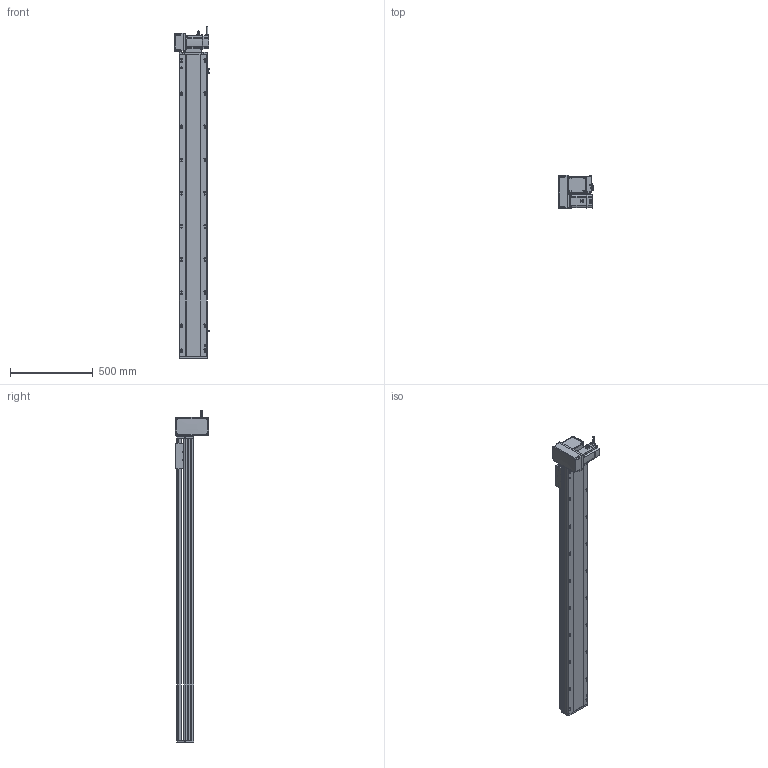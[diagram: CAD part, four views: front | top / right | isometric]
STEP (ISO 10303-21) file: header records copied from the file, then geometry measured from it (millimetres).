
FILE_DESCRIPTION (( 'STEP AP214' ), '1' );
FILE_NAME ('RTB17S-XX-1550-LM-M75-C4.STEP', '2025-12-12T00:41:41', ( '' ), ( '' ), 'SwSTEP 2.0', 'SolidWorks 2018', '' );
FILE_SCHEMA (( 'AUTOMOTIVE_DESIGN' ));
Length unit declared in the file: millimetre
Products named in the file (15): RTB17S-賑釱^RTB17S-XX-XX-LM-M75-C4; RTH13-BL-012覜茼え俋离^RTB17S-賑釱_RTB17S-XX-XX-LM-M75-C4; RTB17-R-011菁釱^RTB17S-XX-XX-LM-M75-C4; RTB17S-L-014-T20-P75--々湍釱^RTB17S-LM-々湍釱蚾饜-750W_RTB17S-XX-XX-LM-M75-C4; EE672^RTB17S-XX-XX-LM-M75-C4; RTB17S-L-007奻裔^RTB17S-XX-XX-LM-M75-C4; RTB17S-LM-々湍釱蚾饜-750W^RTB17S-XX-XX-LM-M75-C4; RTB17S-L-004-賑釱^RTB17S-賑釱_RTB17S-XX-XX-LM-M75-C4; RTB17S-L-001-耜醱啣^RTB17S-XX-XX-LM-M75-C4; RTB22S-GY-005P^RTB17S-LM-々湍釱蚾饜-750W_RTB17S-XX-XX-LM-M75-C4; RTB22S-GY-008-M75--萇儂啣^RTB17S-LM-々湍釱蚾饜-750W_RTB17S-XX-XX-LM-M75-C4; RTB22S-GY-018P^RTB17S-LM-々湍釱蚾饜-750W_RTB17S-XX-XX-LM-M75-C4; RTB17S-XX-1550-LM-M75-C4; RTB22S-GY-017P^RTB17S-LM-々湍釱蚾饜-750W_RTB17S-XX-XX-LM-M75-C4; 750W萇儂^RTB17S-XX-XX-LM-M75-C4
Assembly tree (17 placements, depth 3):
  RTB17S-XX-1550-LM-M75-C4
    RTB17-R-011菁釱^RTB17S-XX-XX-LM-M75-C4
    EE672^RTB17S-XX-XX-LM-M75-C4  x3
    RTB17S-L-001-耜醱啣^RTB17S-XX-XX-LM-M75-C4
    RTB17S-賑釱^RTB17S-XX-XX-LM-M75-C4
      RTB17S-L-004-賑釱^RTB17S-賑釱_RTB17S-XX-XX-LM-M75-C4
      RTH13-BL-012覜茼え俋离^RTB17S-賑釱_RTB17S-XX-XX-LM-M75-C4
    RTB17S-L-007奻裔^RTB17S-XX-XX-LM-M75-C4
    750W萇儂^RTB17S-XX-XX-LM-M75-C4
    RTB17S-LM-々湍釱蚾饜-750W^RTB17S-XX-XX-LM-M75-C4
      RTB17S-L-014-T20-P75--々湍釱^RTB17S-LM-々湍釱蚾饜-750W_RTB17S-XX-XX-LM-M75-C4
      RTB22S-GY-005P^RTB17S-LM-々湍釱蚾饜-750W_RTB17S-XX-XX-LM-M75-C4
      RTB22S-GY-017P^RTB17S-LM-々湍釱蚾饜-750W_RTB17S-XX-XX-LM-M75-C4  x2
      RTB22S-GY-008-M75--萇儂啣^RTB17S-LM-々湍釱蚾饜-750W_RTB17S-XX-XX-LM-M75-C4
      RTB22S-GY-018P^RTB17S-LM-々湍釱蚾饜-750W_RTB17S-XX-XX-LM-M75-C4
Bounding box: 210.4 x 200 x 2002.2 mm (x, y, z)
Volume: 15639276.4 mm3; surface area: 2746500.1 mm2
Topology: 17 solids, 17 shells, 2137 faces, 5944 edges, 3842 vertices
Faces by surface type: plane 976, cylinder 745, bspline 294, cone 110, sphere 8, torus 4
Entity records: 60406 total; most frequent: CARTESIAN_POINT 17808, ORIENTED_EDGE 8732, DIRECTION 8132, EDGE_CURVE 4366, AXIS2_PLACEMENT_3D 2862, VERTEX_POINT 2846, LINE 2408, VECTOR 2408
